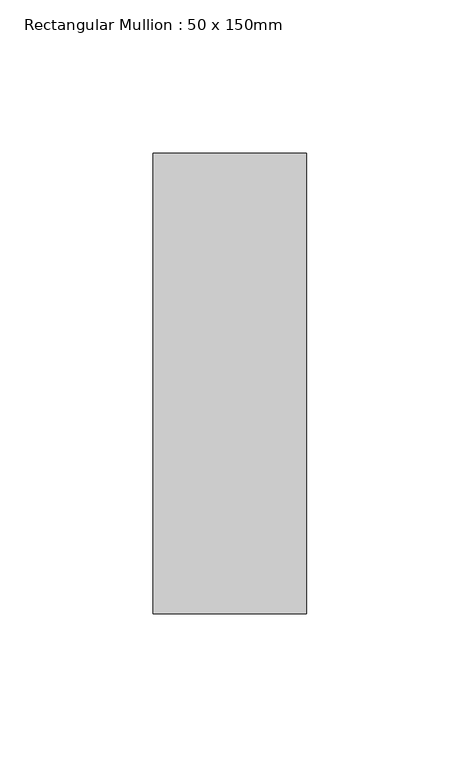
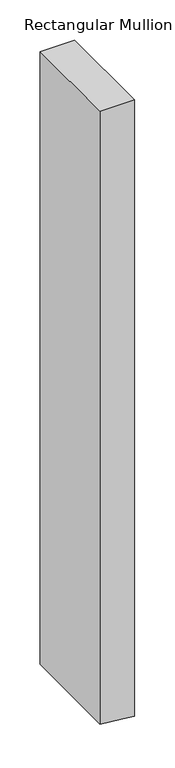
"""IFC4 building model written with IfcOpenShell, lengths in millimetres: member geometry, Rectangular Mullion : 50 x 150mm."""

from ifc_helpers import new_model, si_unit, frame, origin, place, context, project, spatial, polyline, outline, extrude, source, transform, mapped, element, save


def rectangular_mullion_50_x_150mm_3204a6a0(model_context):
    return source(origin(), model_context, "Body", "SweptSolid", [
        extrude(outline(polyline([(0.0, 25.0), (0.0, -25.0), (-933.3105347, -25.0), (-936.7906939, 5.6423937), (-938.9892021, 25.0), (0.0, 25.0)])), frame((0.0, -75.0, 0.0), z_axis=(0.0, 1.0, 0.0), x_axis=(0.0, 0.0, 1.0)), (0.0, 0.0, 1.0), 150.0),
    ])


if __name__ == "__main__":
    model = new_model("IFC4")
    model_context = context("Model", 3, world=origin())
    ifc_project = project(units=[si_unit("LENGTHUNIT", "METRE", prefix="MILLI")], contexts=[model_context])
    site = spatial("IfcSite", under=ifc_project)
    building = spatial("IfcBuilding", under=site)
    placement = place(None, origin())
    rectangular_mullion_50_x_150mm_shape = rectangular_mullion_50_x_150mm_3204a6a0(model_context)
    element("IfcMember", 1, ObjectType="Rectangular Mullion : 50 x 150mm", at=placement, inside=building, context=model_context, shape_type="MappedRepresentation", body=[
        mapped(rectangular_mullion_50_x_150mm_shape, transform((0.0, 0.0, 0.0), x_axis=(1.0, 0.0, 0.0), y_axis=(0.0, 1.0, 0.0), z_axis=(0.0, 0.0, 1.0))),
    ])
    save(model, "model.ifc")
